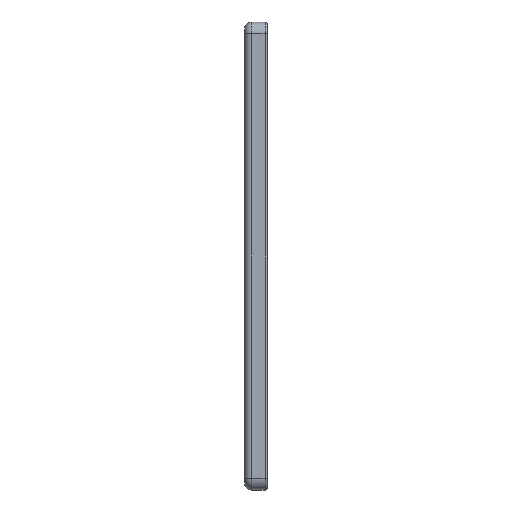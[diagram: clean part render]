
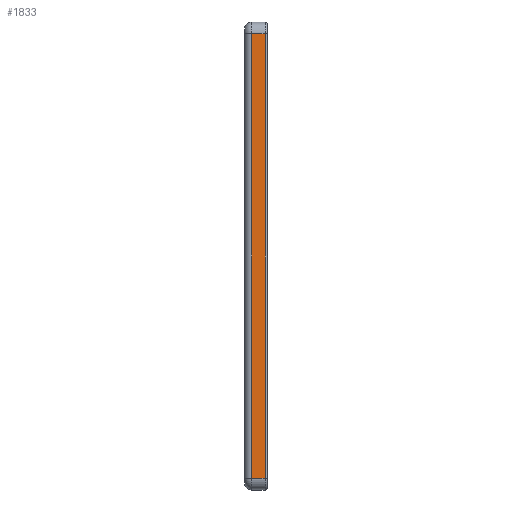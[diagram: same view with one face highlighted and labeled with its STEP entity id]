
A CAD part, left-side view. The second image highlights one B-rep face of the part: STEP entity #1833.
In plain terms, the highlighted planar face has unit normal (-1, 0, 0).
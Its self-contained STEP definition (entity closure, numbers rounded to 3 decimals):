
#18 = CARTESIAN_POINT ( 'NONE',  ( -100., 6.8, -95. ) ) ;
#85 = CARTESIAN_POINT ( 'NONE',  ( -100., 1., -95. ) ) ;
#222 = CARTESIAN_POINT ( 'NONE',  ( -100., 1., 100. ) ) ;
#231 = DIRECTION ( 'NONE',  ( 0., 1., 0. ) ) ;
#252 = CARTESIAN_POINT ( 'NONE',  ( -100., 9.8, 95. ) ) ;
#389 = EDGE_CURVE ( 'NONE', #1516, #1554, #2405, .T. ) ;
#402 = DIRECTION ( 'NONE',  ( 0., 0., 1. ) ) ;
#414 = EDGE_CURVE ( 'NONE', #3016, #1516, #2728, .T. ) ;
#633 = EDGE_CURVE ( 'NONE', #1554, #3009, #2842, .T. ) ;
#680 = EDGE_CURVE ( 'NONE', #3009, #3016, #2607, .T. ) ;
#951 = DIRECTION ( 'NONE',  ( 0., 0., -1. ) ) ;
#958 = DIRECTION ( 'NONE',  ( 0., -1., 0. ) ) ;
#962 = CARTESIAN_POINT ( 'NONE',  ( -100., 6.8, 100. ) ) ;
#972 = CARTESIAN_POINT ( 'NONE',  ( -100., 9.8, -95. ) ) ;
#1419 = AXIS2_PLACEMENT_3D ( 'NONE', #2289, #2284, #2283 ) ;
#1516 = VERTEX_POINT ( 'NONE', #18 ) ;
#1554 = VERTEX_POINT ( 'NONE', #85 ) ;
#1592 = ORIENTED_EDGE ( 'NONE', *, *, #680, .T. ) ;
#1672 = ORIENTED_EDGE ( 'NONE', *, *, #389, .T. ) ;
#1678 = ORIENTED_EDGE ( 'NONE', *, *, #414, .T. ) ;
#1687 = ORIENTED_EDGE ( 'NONE', *, *, #633, .T. ) ;
#1727 = VECTOR ( 'NONE', #958, 1000. ) ;
#1833 = ADVANCED_FACE ( 'NONE', ( #3553 ), #2287, .F. ) ;
#2245 = CARTESIAN_POINT ( 'NONE',  ( -100., 6.8, 95. ) ) ;
#2250 = CARTESIAN_POINT ( 'NONE',  ( -100., 1., 95. ) ) ;
#2283 = DIRECTION ( 'NONE',  ( 0., 0., -1. ) ) ;
#2284 = DIRECTION ( 'NONE',  ( 1., 0., 0. ) ) ;
#2287 = PLANE ( 'NONE',  #1419 ) ;
#2289 = CARTESIAN_POINT ( 'NONE',  ( -100., 9.8, 100. ) ) ;
#2405 = LINE ( 'NONE', #972, #1727 ) ;
#2607 = LINE ( 'NONE', #252, #2615 ) ;
#2615 = VECTOR ( 'NONE', #231, 1000. ) ;
#2728 = LINE ( 'NONE', #962, #2730 ) ;
#2730 = VECTOR ( 'NONE', #951, 1000. ) ;
#2842 = LINE ( 'NONE', #222, #2852 ) ;
#2852 = VECTOR ( 'NONE', #402, 1000. ) ;
#3009 = VERTEX_POINT ( 'NONE', #2250 ) ;
#3016 = VERTEX_POINT ( 'NONE', #2245 ) ;
#3106 = EDGE_LOOP ( 'NONE', ( #1672, #1687, #1592, #1678 ) ) ;
#3553 = FACE_OUTER_BOUND ( 'NONE', #3106, .T. ) ;
